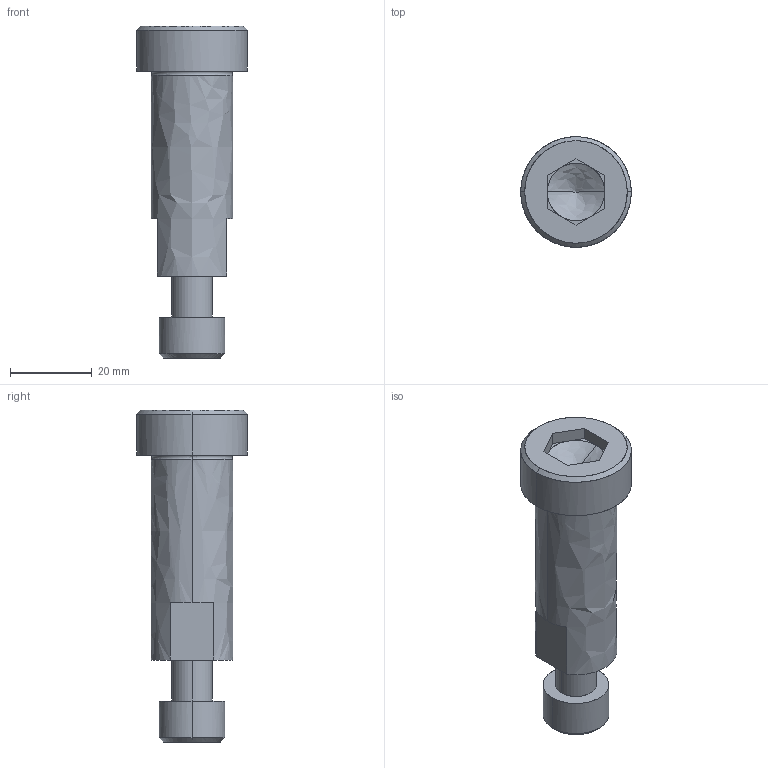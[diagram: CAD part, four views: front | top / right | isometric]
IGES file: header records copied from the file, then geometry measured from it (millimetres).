
Global section: file name: E:\UnigraphicsGraphicData\MISUMI_PRESS-PARTS\IGES\3d_sbt20-50_05077_r00.igs; native system: NX V5.0; preprocessor: UGS NX IGES V5.0; author: MISUMI; date: 20110105.162441; units: millimetre
Bounding box: 27 x 27 x 81 mm (x, y, z)
Surface area: 7950.5 mm2 (no closed solid volume)
Topology: 0 solids, 0 shells, 56 faces, 318 edges, 314 vertices
Faces by surface type: bspline 56
